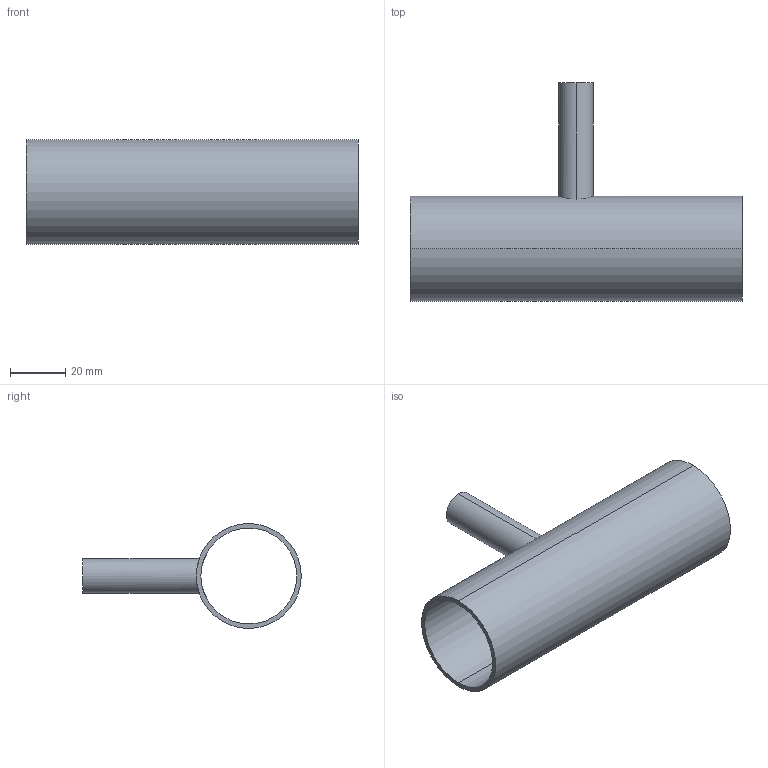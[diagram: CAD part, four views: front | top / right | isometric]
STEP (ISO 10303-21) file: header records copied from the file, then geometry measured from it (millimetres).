
FILE_DESCRIPTION (( 'STEP AP214' ), '1' );
FILE_NAME ('TE7RWWW6L1.5x.5-...STEP', '2016-05-24T04:09:52', ( 'eran' ), ( '' ), 'SwSTEP 2.0', 'SolidWorks 2016', '' );
FILE_SCHEMA (( 'AUTOMOTIVE_DESIGN' ));
Length unit declared in the file: millimetre
Products named in the file (1): TE7RWWW6L1.5x.5-..
Bounding box: 120.6 x 79.35 x 38.1 mm (x, y, z)
Volume: 25057.7 mm3; surface area: 30800.4 mm2
Topology: 1 solids, 1 shells, 11 faces, 24 edges, 16 vertices
Faces by surface type: cylinder 8, plane 3
Entity records: 496 total; most frequent: CARTESIAN_POINT 204, DIRECTION 56, ORIENTED_EDGE 48, AXIS2_PLACEMENT_3D 24, EDGE_CURVE 24, EDGE_LOOP 16, VERTEX_POINT 16, CIRCLE 12
